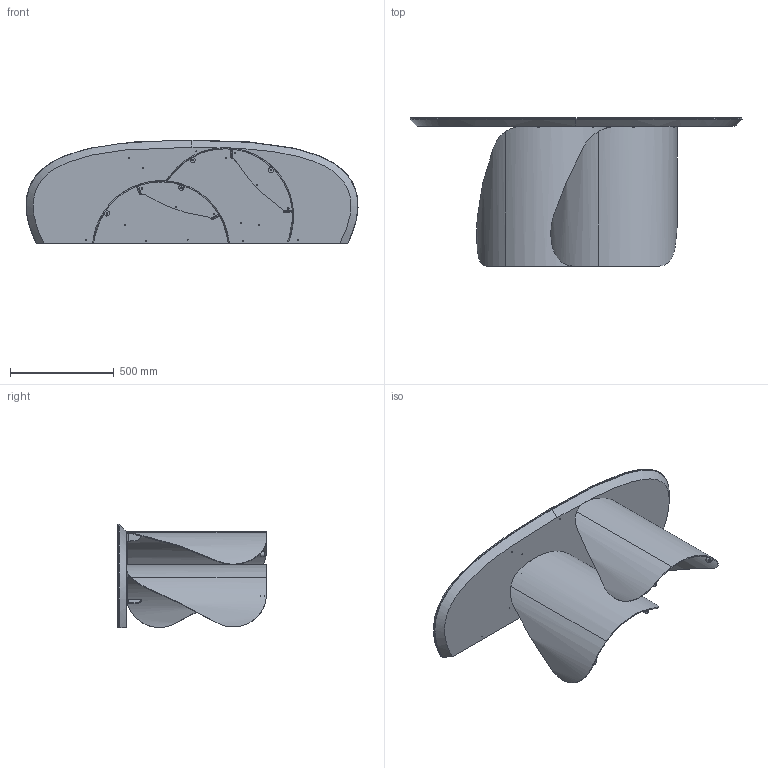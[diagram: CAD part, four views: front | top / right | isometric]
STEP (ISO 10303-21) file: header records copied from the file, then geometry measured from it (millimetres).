
FILE_DESCRIPTION (( 'STEP AP203' ), '1' );
FILE_NAME ('ON60G_Onda Console_160x50x72h_Glass Shaped.STEP', '2024-08-06T09:49:07', ( '' ), ( '' ), 'SwSTEP 2.0', 'SolidWorks 2022', '' );
FILE_SCHEMA (( 'CONFIG_CONTROL_DESIGN' ));
Length unit declared in the file: millimetre
Products named in the file (8): OND000000-03-ONDA BASE GREZZA; ON60G_Onda Console_160x50x72h_Glass Shaped; OND000000_01-00-PIASTRA SUPERIORE BASE ONDA; OND000000_02-00-CILINDRO DI FISSAGGIO Ø25X17 M8; CXXXX-00-piani CRISTALLO Sasso per console_160x50; CXXXX-00-piani CRISTALLO Sasso per console_160X50; OND000000_03-00-LAMIERA CURVATA PRINCIPALE_OND00000X-00-ONDA BASE GREZZA PROTOTIPO; TRU000XXX-01-Sottopiano per ceramica_160x50<A macchina>
Assembly tree (9 placements, depth 3):
  ON60G_Onda Console_160x50x72h_Glass Shaped
    CXXXX-00-piani CRISTALLO Sasso per console_160X50
      CXXXX-00-piani CRISTALLO Sasso per console_160x50
      TRU000XXX-01-Sottopiano per ceramica_160x50<A macchina>
    OND000000-03-ONDA BASE GREZZA  x2
      OND000000_03-00-LAMIERA CURVATA PRINCIPALE_OND00000X-00-ONDA BASE GREZZA PROTOTIPO
      OND000000_01-00-PIASTRA SUPERIORE BASE ONDA
      OND000000_02-00-CILINDRO DI FISSAGGIO Ø25X17 M8
Bounding box: 1599.73 x 716.01 x 500 mm (x, y, z)
Volume: 33650882.3 mm3; surface area: 5252029 mm2
Topology: 10 solids, 10 shells, 282 faces, 713 edges, 431 vertices
Faces by surface type: cylinder 130, plane 66, bspline 46, cone 40
Entity records: 9325 total; most frequent: CARTESIAN_POINT 4349, ORIENTED_EDGE 844, DIRECTION 835, EDGE_CURVE 422, AXIS2_PLACEMENT_3D 333, VERTEX_POINT 269, EDGE_LOOP 213, FACE_OUTER_BOUND 183
